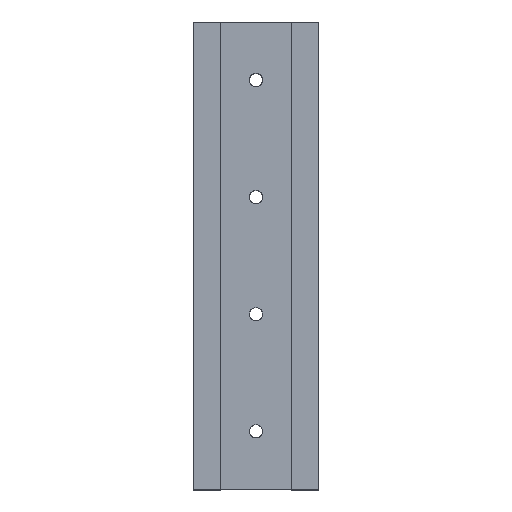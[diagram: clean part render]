
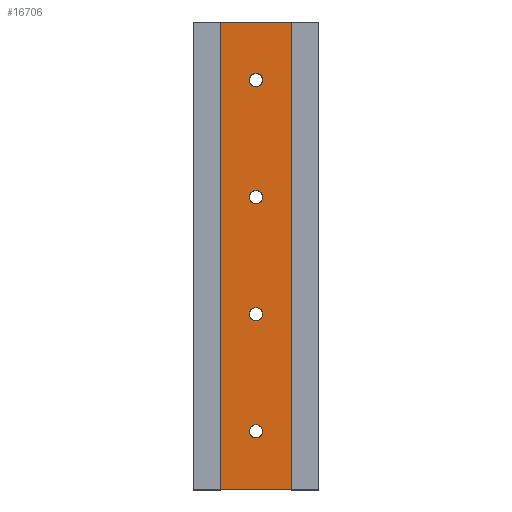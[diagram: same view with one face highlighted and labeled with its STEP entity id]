
A CAD part, top view. The second image highlights one B-rep face of the part: STEP entity #16706.
In plain terms, the highlighted planar face has unit normal (0, 0, 1).
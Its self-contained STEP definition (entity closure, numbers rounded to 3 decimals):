
#11 = CIRCLE ( 'NONE', #17014, 3.4 ) ;
#365 = ORIENTED_EDGE ( 'NONE', *, *, #9779, .F. ) ;
#482 = LINE ( 'NONE', #11317, #10795 ) ;
#557 = ORIENTED_EDGE ( 'NONE', *, *, #5890, .F. ) ;
#580 = ORIENTED_EDGE ( 'NONE', *, *, #8398, .F. ) ;
#685 = CARTESIAN_POINT ( 'NONE',  ( 102.506, 45.26, 179.087 ) ) ;
#1091 = DIRECTION ( 'NONE',  ( 0., 0., 1. ) ) ;
#1574 = VERTEX_POINT ( 'NONE', #7461 ) ;
#1708 = ORIENTED_EDGE ( 'NONE', *, *, #17007, .T. ) ;
#2037 = LINE ( 'NONE', #10281, #17293 ) ;
#2112 = CARTESIAN_POINT ( 'NONE',  ( 105.906, 45.26, 179.087 ) ) ;
#2397 = EDGE_CURVE ( 'Defeatured_0_17+Defeatured_0_19+Defeatured_0_2+Defeatured_0_9', #13904, #14221, #12842, .T. ) ;
#2426 = CARTESIAN_POINT ( 'NONE',  ( 105.906, 225.26, 179.087 ) ) ;
#2456 = ORIENTED_EDGE ( 'NONE', *, *, #4551, .F. ) ;
#2525 = CIRCLE ( 'NONE', #11295, 3.4 ) ;
#2634 = FACE_BOUND ( 'NONE', #14420, .T. ) ;
#2650 = VERTEX_POINT ( 'NONE', #4315 ) ;
#2782 = VERTEX_POINT ( 'NONE', #4648 ) ;
#2825 = VERTEX_POINT ( 'NONE', #3066 ) ;
#3066 = CARTESIAN_POINT ( 'NONE',  ( 109.306, 45.26, 179.087 ) ) ;
#3123 = CIRCLE ( 'NONE', #11901, 3.4 ) ;
#3192 = ORIENTED_EDGE ( 'NONE', *, *, #14854, .F. ) ;
#3543 = DIRECTION ( 'NONE',  ( 0., 1., 0. ) ) ;
#3765 = VERTEX_POINT ( 'NONE', #5354 ) ;
#3824 = DIRECTION ( 'NONE',  ( 0., 0., 1. ) ) ;
#3871 = CARTESIAN_POINT ( 'NONE',  ( 87.656, 15.51, 179.087 ) ) ;
#3945 = EDGE_CURVE ( 'Defeatured_0_75+Defeatured_0_19+Defeatured_0_74+Defeatured_0_74', #8037, #3765, #11, .T. ) ;
#3964 = EDGE_CURVE ( 'Defeatured_0_60+Defeatured_0_19+Defeatured_0_61+Defeatured_0_61', #2782, #2650, #3123, .T. ) ;
#3975 = VERTEX_POINT ( 'NONE', #15815 ) ;
#4025 = EDGE_CURVE ( 'Defeatured_0_6+Defeatured_0_19+Defeatured_0_9+Defeatured_0_7', #14221, #5701, #9588, .T. ) ;
#4174 = CARTESIAN_POINT ( 'NONE',  ( 87.656, 255.01, 179.087 ) ) ;
#4311 = EDGE_LOOP ( 'NONE', ( #12908, #3192 ) ) ;
#4315 = CARTESIAN_POINT ( 'NONE',  ( 109.306, 105.26, 179.087 ) ) ;
#4551 = EDGE_CURVE ( 'Defeatured_0_33+Defeatured_0_19+Defeatured_0_32+Defeatured_0_32', #1574, #3975, #15052, .T. ) ;
#4640 = EDGE_LOOP ( 'NONE', ( #12576, #7230 ) ) ;
#4648 = CARTESIAN_POINT ( 'NONE',  ( 102.506, 105.26, 179.087 ) ) ;
#4676 = DIRECTION ( 'NONE',  ( 0., 0., 1. ) ) ;
#4809 = CARTESIAN_POINT ( 'NONE',  ( 105.906, 105.26, 179.087 ) ) ;
#4837 = AXIS2_PLACEMENT_3D ( 'NONE', #13482, #3824, #9224 ) ;
#4874 = ORIENTED_EDGE ( 'NONE', *, *, #2397, .F. ) ;
#5128 = CARTESIAN_POINT ( 'NONE',  ( 124.156, 255.01, 179.087 ) ) ;
#5247 = CARTESIAN_POINT ( 'NONE',  ( 105.906, 225.26, 179.087 ) ) ;
#5354 = CARTESIAN_POINT ( 'NONE',  ( 102.506, 225.26, 179.087 ) ) ;
#5371 = EDGE_CURVE ( 'Defeatured_0_74+Defeatured_0_19+Defeatured_0_75+Defeatured_0_75', #3765, #8037, #15154, .T. ) ;
#5421 = CARTESIAN_POINT ( 'NONE',  ( 124.156, 255.01, 179.087 ) ) ;
#5503 = DIRECTION ( 'NONE',  ( 0., -1., 0. ) ) ;
#5701 = VERTEX_POINT ( 'NONE', #15003 ) ;
#5864 = AXIS2_PLACEMENT_3D ( 'NONE', #2112, #4676, #11777 ) ;
#5890 = EDGE_CURVE ( 'Defeatured_0_47+Defeatured_0_19+Defeatured_0_46+Defeatured_0_46', #2825, #16533, #11534, .T. ) ;
#5917 = CIRCLE ( 'NONE', #9603, 3.4 ) ;
#5939 = DIRECTION ( 'NONE',  ( 1., 0., 0. ) ) ;
#5951 = VECTOR ( 'NONE', #5503, 1000. ) ;
#6490 = DIRECTION ( 'NONE',  ( 0., 0., 1. ) ) ;
#6954 = DIRECTION ( 'NONE',  ( 1., 0., 0. ) ) ;
#7101 = AXIS2_PLACEMENT_3D ( 'NONE', #3871, #13451, #14710 ) ;
#7230 = ORIENTED_EDGE ( 'NONE', *, *, #3945, .F. ) ;
#7461 = CARTESIAN_POINT ( 'NONE',  ( 109.306, 165.26, 179.087 ) ) ;
#7738 = DIRECTION ( 'NONE',  ( 1., 0., 0. ) ) ;
#7863 = CIRCLE ( 'NONE', #5864, 3.4 ) ;
#8037 = VERTEX_POINT ( 'NONE', #12862 ) ;
#8116 = ORIENTED_EDGE ( 'NONE', *, *, #16173, .F. ) ;
#8178 = DIRECTION ( 'NONE',  ( 1., 0., 0. ) ) ;
#8279 = VECTOR ( 'NONE', #16930, 1000. ) ;
#8398 = EDGE_CURVE ( 'Defeatured_0_46+Defeatured_0_19+Defeatured_0_47+Defeatured_0_47', #16533, #2825, #7863, .T. ) ;
#9224 = DIRECTION ( 'NONE',  ( 1., 0., 0. ) ) ;
#9588 = LINE ( 'NONE', #5421, #5951 ) ;
#9603 = AXIS2_PLACEMENT_3D ( 'NONE', #10023, #12784, #5939 ) ;
#9662 = CARTESIAN_POINT ( 'NONE',  ( 105.906, 45.26, 179.087 ) ) ;
#9779 = EDGE_CURVE ( 'Defeatured_0_32+Defeatured_0_19+Defeatured_0_33+Defeatured_0_33', #3975, #1574, #5917, .T. ) ;
#9974 = DIRECTION ( 'NONE',  ( 1., 0., 0. ) ) ;
#10023 = CARTESIAN_POINT ( 'NONE',  ( 105.906, 165.26, 179.087 ) ) ;
#10281 = CARTESIAN_POINT ( 'NONE',  ( 87.656, 15.51, 179.087 ) ) ;
#10530 = EDGE_LOOP ( 'NONE', ( #4874, #8116, #1708, #13803 ) ) ;
#10609 = FACE_OUTER_BOUND ( 'NONE', #10530, .T. ) ;
#10747 = VERTEX_POINT ( 'NONE', #17339 ) ;
#10795 = VECTOR ( 'NONE', #9974, 1000. ) ;
#11295 = AXIS2_PLACEMENT_3D ( 'NONE', #15047, #13711, #6954 ) ;
#11317 = CARTESIAN_POINT ( 'NONE',  ( 87.656, 15.51, 179.087 ) ) ;
#11534 = CIRCLE ( 'NONE', #13805, 3.4 ) ;
#11777 = DIRECTION ( 'NONE',  ( 1., 0., 0. ) ) ;
#11859 = FACE_BOUND ( 'NONE', #4640, .T. ) ;
#11901 = AXIS2_PLACEMENT_3D ( 'NONE', #4809, #6490, #12977 ) ;
#11999 = DIRECTION ( 'NONE',  ( 0., 0., 1. ) ) ;
#12576 = ORIENTED_EDGE ( 'NONE', *, *, #5371, .F. ) ;
#12784 = DIRECTION ( 'NONE',  ( 0., 0., 1. ) ) ;
#12842 = LINE ( 'NONE', #14087, #8279 ) ;
#12862 = CARTESIAN_POINT ( 'NONE',  ( 109.306, 225.26, 179.087 ) ) ;
#12908 = ORIENTED_EDGE ( 'NONE', *, *, #3964, .F. ) ;
#12977 = DIRECTION ( 'NONE',  ( 1., 0., 0. ) ) ;
#13451 = DIRECTION ( 'NONE',  ( 0., 0., 1. ) ) ;
#13482 = CARTESIAN_POINT ( 'NONE',  ( 105.906, 165.26, 179.087 ) ) ;
#13711 = DIRECTION ( 'NONE',  ( 0., 0., 1. ) ) ;
#13803 = ORIENTED_EDGE ( 'NONE', *, *, #4025, .F. ) ;
#13805 = AXIS2_PLACEMENT_3D ( 'NONE', #9662, #15093, #13846 ) ;
#13846 = DIRECTION ( 'NONE',  ( 1., 0., 0. ) ) ;
#13904 = VERTEX_POINT ( 'NONE', #4174 ) ;
#14087 = CARTESIAN_POINT ( 'NONE',  ( 87.656, 255.01, 179.087 ) ) ;
#14221 = VERTEX_POINT ( 'NONE', #5128 ) ;
#14420 = EDGE_LOOP ( 'NONE', ( #365, #2456 ) ) ;
#14710 = DIRECTION ( 'NONE',  ( 1., 0., 0. ) ) ;
#14854 = EDGE_CURVE ( 'Defeatured_0_61+Defeatured_0_19+Defeatured_0_60+Defeatured_0_60', #2650, #2782, #2525, .T. ) ;
#15003 = CARTESIAN_POINT ( 'NONE',  ( 124.156, 15.51, 179.087 ) ) ;
#15047 = CARTESIAN_POINT ( 'NONE',  ( 105.906, 105.26, 179.087 ) ) ;
#15052 = CIRCLE ( 'NONE', #4837, 3.4 ) ;
#15093 = DIRECTION ( 'NONE',  ( 0., 0., 1. ) ) ;
#15154 = CIRCLE ( 'NONE', #16290, 3.4 ) ;
#15641 = EDGE_LOOP ( 'NONE', ( #580, #557 ) ) ;
#15815 = CARTESIAN_POINT ( 'NONE',  ( 102.506, 165.26, 179.087 ) ) ;
#16023 = PLANE ( 'NONE',  #7101 ) ;
#16173 = EDGE_CURVE ( 'Defeatured_0_1+Defeatured_0_19+Defeatured_0_4+Defeatured_0_2', #10747, #13904, #2037, .T. ) ;
#16290 = AXIS2_PLACEMENT_3D ( 'NONE', #5247, #11999, #8178 ) ;
#16533 = VERTEX_POINT ( 'NONE', #685 ) ;
#16706 = ADVANCED_FACE ( 'Defeatured_0_19', ( #11859, #17283, #17370, #2634, #10609 ), #16023, .T. ) ;
#16930 = DIRECTION ( 'NONE',  ( 1., 0., 0. ) ) ;
#17007 = EDGE_CURVE ( 'Defeatured_0_19+Defeatured_0_18+Defeatured_0_1+Defeatured_0_6', #10747, #5701, #482, .T. ) ;
#17014 = AXIS2_PLACEMENT_3D ( 'NONE', #2426, #1091, #7738 ) ;
#17283 = FACE_BOUND ( 'NONE', #4311, .T. ) ;
#17293 = VECTOR ( 'NONE', #3543, 1000. ) ;
#17339 = CARTESIAN_POINT ( 'NONE',  ( 87.656, 15.51, 179.087 ) ) ;
#17370 = FACE_BOUND ( 'NONE', #15641, .T. ) ;
